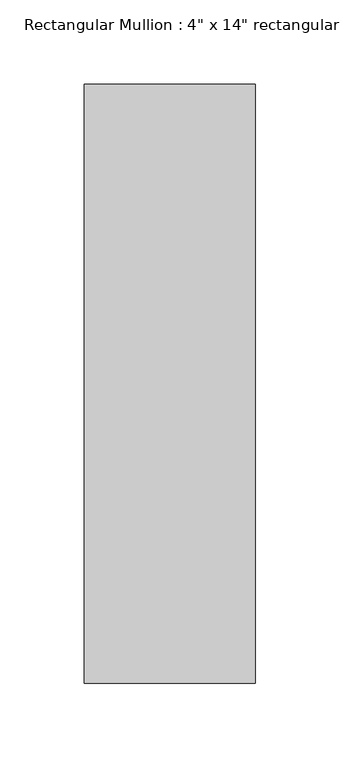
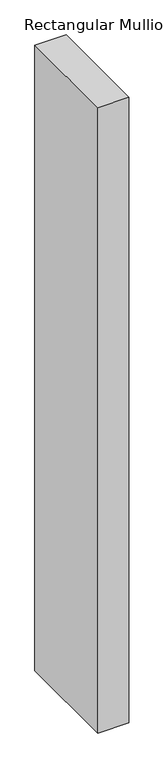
"""IFC4 building model written with IfcOpenShell, lengths in millimetres: member geometry."""

import ifcopenshell
import ifcopenshell.guid

model = None  # the IFC model being written
_history = None  # IfcOwnerHistory: only IFC2X3 demands one
_inside = {}  # id of a spatial element -> (the spatial element, [elements in it])
_under = {}  # id of a project, library or spatial element -> (it, [spatial elements below it])
_declared = {}  # id of a project -> (the project, [libraries it declares])
_typed = {}  # id of a type object -> (the type object, [elements of that type])
_made_of = {}  # id of a material, layer set ... -> (it, [elements and type objects made of it])


def new_model(schema):
    """Start an empty IFC model of exactly this schema.

    Asked for "IFC4X3", IfcOpenShell would pick the latest addendum, in which some entities
    have other attributes; the version numbers below select the first issue.
    IFC2X3 requires an IfcOwnerHistory on every rooted entity: one is made here for all.
    """
    global model, _history
    if schema == "IFC4X3":
        model = ifcopenshell.file(schema_version=(4, 3, 0, 0))
    else:
        model = ifcopenshell.file(schema=schema)
    _inside.clear()
    _under.clear()
    _declared.clear()
    _typed.clear()
    _made_of.clear()
    _history = None
    if model.schema == "IFC2X3":
        org = make("IfcOrganization", Name="unknown")
        user = make(
            "IfcPersonAndOrganization",
            ThePerson=make("IfcPerson", FamilyName="unknown"),
            TheOrganization=org,
        )
        app = make(
            "IfcApplication",
            ApplicationDeveloper=org,
            Version="unknown",
            ApplicationFullName="unknown",
            ApplicationIdentifier="unknown",
        )
        _history = make(
            "IfcOwnerHistory",
            OwningUser=user,
            OwningApplication=app,
            ChangeAction="ADDED",
            CreationDate=0,
        )
    return model


def make(cls, **values):
    """One entity of the class cls with the attributes given. An attribute that is None is left unset."""
    return model.create_entity(
        cls, **{name: value for name, value in values.items() if value is not None}
    )


def rooted(cls, **values):
    """An entity with a GlobalId (a new one), such as an element, a storey or a relation."""
    return make(cls, GlobalId=ifcopenshell.guid.new(), OwnerHistory=_history, **values)


def si_unit(unit_type, name, prefix=None):
    """IfcSIUnit, for example si_unit("LENGTHUNIT", "METRE", prefix="MILLI")."""
    return make("IfcSIUnit", UnitType=unit_type, Prefix=prefix, Name=name)


def assignment(units):
    """IfcUnitAssignment: the units of a project."""
    return None if units is None else make("IfcUnitAssignment", Units=units)


def point(xyz):
    """IfcCartesianPoint."""
    return None if xyz is None else make("IfcCartesianPoint", Coordinates=xyz)


def direction(xyz):
    """IfcDirection."""
    return None if xyz is None else make("IfcDirection", DirectionRatios=xyz)


def frame(location, z_axis=None, x_axis=None):
    """IfcAxis2Placement3D, a coordinate frame: its origin and axes. An axis left out is left unset."""
    return make(
        "IfcAxis2Placement3D",
        Location=point(location),
        Axis=direction(z_axis),
        RefDirection=direction(x_axis),
    )


def origin():
    """The frame at (0, 0, 0) with its axes left unset."""
    return frame((0.0, 0.0, 0.0))


def place(relative_to, where):
    """IfcLocalPlacement: puts the frame where relative to a parent placement (None: the world)."""
    return make(
        "IfcLocalPlacement", PlacementRelTo=relative_to, RelativePlacement=where
    )


def context(
    kind, dimensions, precision=None, world=None, true_north=None, identifier=None
):
    """IfcGeometricRepresentationContext, for example the 3D "Model" context."""
    return make(
        "IfcGeometricRepresentationContext",
        ContextIdentifier=identifier,
        ContextType=kind,
        CoordinateSpaceDimension=dimensions,
        Precision=precision,
        WorldCoordinateSystem=world,
        TrueNorth=true_north,
    )


def project(units=None, contexts=None):
    """IfcProject with its units and contexts."""
    return rooted(
        "IfcProject",
        Name="project",
        RepresentationContexts=contexts,
        UnitsInContext=assignment(units),
    )


def spatial(cls, under=None, at=None, **own):
    """A site, building, storey or space (cls), placed at a placement, below another one or the project."""
    s = rooted(cls, ObjectPlacement=at, **own)
    if under is not None:
        _under.setdefault(under.id(), (under, []))[1].append(s)
    return s


def polyline(points):
    """IfcPolyline through the points."""
    return make("IfcPolyline", Points=[point(p) for p in points])


def outline(outer, holes=None, kind="AREA"):
    """IfcArbitraryClosedProfileDef: a profile drawn as a closed curve; with holes, ...WithVoids."""
    if holes is None:
        return make("IfcArbitraryClosedProfileDef", ProfileType=kind, OuterCurve=outer)
    return make(
        "IfcArbitraryProfileDefWithVoids",
        ProfileType=kind,
        OuterCurve=outer,
        InnerCurves=holes,
    )


def extrude(swept, where, along, depth):
    """IfcExtrudedAreaSolid: the profile swept, set in the frame where, extruded along a direction by depth."""
    return make(
        "IfcExtrudedAreaSolid",
        SweptArea=swept,
        Position=where,
        ExtrudedDirection=direction(along),
        Depth=depth,
    )


def shape(context_of_items, identifier, shape_type, items):
    """IfcShapeRepresentation: the items that make up one representation, for example the "Body"."""
    return make(
        "IfcShapeRepresentation",
        ContextOfItems=context_of_items,
        RepresentationIdentifier=identifier,
        RepresentationType=shape_type,
        Items=items,
    )


def source(mapping_origin, context_of_items, identifier, shape_type, items):
    """IfcRepresentationMap: a shape defined once, which mapped items show again and again."""
    return make(
        "IfcRepresentationMap",
        MappingOrigin=mapping_origin,
        MappedRepresentation=shape(context_of_items, identifier, shape_type, items),
    )


def transform(
    local_origin,
    x_axis=None,
    y_axis=None,
    z_axis=None,
    scale=None,
    scale2=None,
    scale3=None,
    uniform=True,
):
    """IfcCartesianTransformationOperator3D, or its non-uniform kind. x_axis, y_axis, z_axis: its Axis1, 2, 3."""
    if uniform:
        return make(
            "IfcCartesianTransformationOperator3D",
            Axis1=direction(x_axis),
            Axis2=direction(y_axis),
            LocalOrigin=point(local_origin),
            Scale=scale,
            Axis3=direction(z_axis),
        )
    return make(
        "IfcCartesianTransformationOperator3DnonUniform",
        Axis1=direction(x_axis),
        Axis2=direction(y_axis),
        LocalOrigin=point(local_origin),
        Scale=scale,
        Axis3=direction(z_axis),
        Scale2=scale2,
        Scale3=scale3,
    )


def mapped(mapping_source, mapping_target):
    """IfcMappedItem: shows the shape of a source again, moved by a transform."""
    return make(
        "IfcMappedItem", MappingSource=mapping_source, MappingTarget=mapping_target
    )


def made_of(thing, what):
    """Note that an element or type object is made of a material, layer set ...; save() writes the relation."""
    if what is not None:
        _made_of.setdefault(what.id(), (what, []))[1].append(thing)
    return thing


def element(
    cls,
    number,
    at=None,
    inside=None,
    cuts=None,
    type_object=None,
    material=None,
    context=None,
    identifier="Body",
    shape_type=None,
    held_by="IfcProductDefinitionShape",
    body=None,
    shapes=None,
    **own,
):
    """One element of the class cls, such as IfcWall. Its Tag is "e" and its number.

    at: its placement. inside: the storey or other place that contains it. cuts: it is an
    opening in that element (IfcRelVoidsElement). A single representation is given by context,
    identifier, shape_type and body (its items); several are given by shapes. held_by: the class
    of the entity that holds the representations. save() writes the other relations.
    """
    e = rooted(cls, Tag="e%d" % number, ObjectPlacement=at, **own)
    if body is not None:
        shapes = [shape(context, identifier, shape_type, body)]
    if shapes is not None:
        e.Representation = make(held_by, Representations=shapes)
    if inside is not None:
        _inside.setdefault(inside.id(), (inside, []))[1].append(e)
    if cuts is not None:
        rooted(
            "IfcRelVoidsElement", RelatingBuildingElement=cuts, RelatedOpeningElement=e
        )
    if type_object is not None:
        _typed.setdefault(type_object.id(), (type_object, []))[1].append(e)
    return made_of(e, material)


def aggregate(whole, parts):
    """IfcRelAggregates: a whole, such as a stair, and the parts it consists of."""
    return rooted("IfcRelAggregates", RelatingObject=whole, RelatedObjects=parts)


def save(model, path):
    """Write the relations noted so far, then the file.

    IfcRelAggregates (storeys below a building ...), IfcRelContainedInSpatialStructure (elements
    in a storey), IfcRelDefinesByType, IfcRelAssociatesMaterial and IfcRelDeclares: one each for
    every whole, place, type object, material and project.
    """
    for whole, parts in _under.values():
        aggregate(whole, parts)
    for where, things in _inside.values():
        rooted(
            "IfcRelContainedInSpatialStructure",
            RelatedElements=things,
            RelatingStructure=where,
        )
    for kind, things in _typed.values():
        rooted("IfcRelDefinesByType", RelatedObjects=things, RelatingType=kind)
    for what, things in _made_of.values():
        rooted("IfcRelAssociatesMaterial", RelatedObjects=things, RelatingMaterial=what)
    for by, libraries in _declared.values():
        rooted("IfcRelDeclares", RelatingContext=by, RelatedDefinitions=libraries)
    model.write(path)


def member_ac60097b(model_context):
    return source(origin(), model_context, "Body", "SweptSolid", [
        extrude(outline(polyline([(50.8, 12.7), (50.8, -342.9), (-50.8, -342.9), (-50.8, 12.7), (50.8, 12.7)])), frame((0.0, 0.0, -2156.4403385), z_axis=(0.0, 0.0, 1.0), x_axis=(1.0, 0.0, 0.0)), (0.0, 0.0, 1.0), 2156.4403385),
    ])


if __name__ == "__main__":
    model = new_model("IFC4")
    model_context = context("Model", 3, world=origin())
    ifc_project = project(units=[si_unit("LENGTHUNIT", "METRE", prefix="MILLI")], contexts=[model_context])
    site = spatial("IfcSite", under=ifc_project)
    building = spatial("IfcBuilding", under=site)
    placement = place(None, origin())
    member_shape = member_ac60097b(model_context)
    element("IfcMember", 1, ObjectType="Rectangular Mullion : 4\" x 14\" rectangular", at=placement, inside=building, context=model_context, shape_type="MappedRepresentation", body=[
        mapped(member_shape, transform((0.0, 0.0, 0.0), x_axis=(1.0, 0.0, 0.0), y_axis=(0.0, 1.0, 0.0), z_axis=(0.0, 0.0, 1.0))),
    ])
    save(model, "model.ifc")
